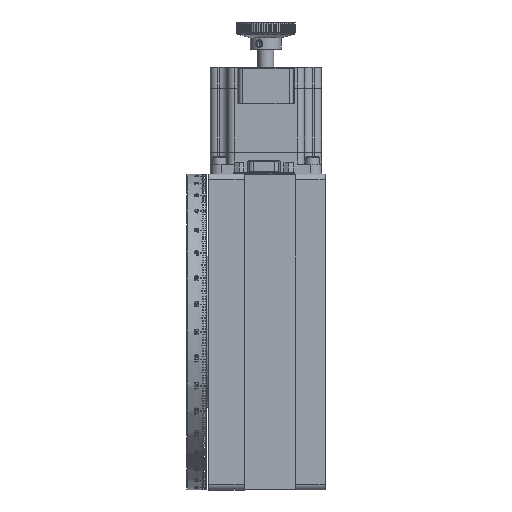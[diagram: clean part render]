
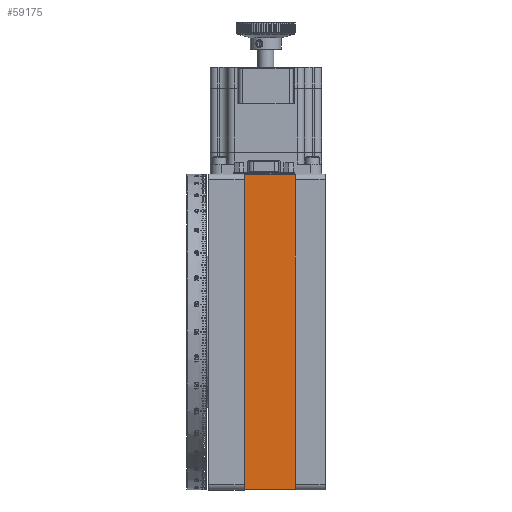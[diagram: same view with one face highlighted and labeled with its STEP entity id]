
A CAD part, left-side view. The second image highlights one B-rep face of the part: STEP entity #59175.
In plain terms, the highlighted planar face has unit normal (-1, 0, 0).
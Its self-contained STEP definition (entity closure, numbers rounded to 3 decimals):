
#375 = CARTESIAN_POINT ( 'NONE',  ( -155.638, 22.37, 80. ) ) ;
#383 = DIRECTION ( 'NONE',  ( 0., 1., 0. ) ) ;
#403 = CARTESIAN_POINT ( 'NONE',  ( -155.638, 22.37, -80. ) ) ;
#412 = DIRECTION ( 'NONE',  ( 0., 1., 0. ) ) ;
#426 = CARTESIAN_POINT ( 'NONE',  ( -155.638, -3.63, -80. ) ) ;
#436 = DIRECTION ( 'NONE',  ( 0., 0., 1. ) ) ;
#464 = DIRECTION ( 'NONE',  ( 0., 0., 1. ) ) ;
#473 = CARTESIAN_POINT ( 'NONE',  ( -155.638, 22.37, -80. ) ) ;
#3844 = VERTEX_POINT ( 'NONE', #59707 ) ;
#4715 = VERTEX_POINT ( 'NONE', #59761 ) ;
#4717 = VERTEX_POINT ( 'NONE', #59762 ) ;
#5059 = VERTEX_POINT ( 'NONE', #77801 ) ;
#28482 = VECTOR ( 'NONE', #464, 1000. ) ;
#28487 = LINE ( 'NONE', #473, #28482 ) ;
#28494 = VECTOR ( 'NONE', #436, 1000. ) ;
#28498 = LINE ( 'NONE', #426, #28494 ) ;
#28502 = VECTOR ( 'NONE', #412, 1000. ) ;
#28507 = LINE ( 'NONE', #403, #28502 ) ;
#28513 = VECTOR ( 'NONE', #383, 1000. ) ;
#28519 = LINE ( 'NONE', #375, #28513 ) ;
#29346 = FACE_OUTER_BOUND ( 'NONE', #43595, .T. ) ;
#43595 = EDGE_LOOP ( 'NONE', ( #44453, #44451, #44449, #44447 ) ) ;
#44447 = ORIENTED_EDGE ( 'NONE', *, *, #72999, .T. ) ;
#44449 = ORIENTED_EDGE ( 'NONE', *, *, #72994, .F. ) ;
#44451 = ORIENTED_EDGE ( 'NONE', *, *, #73007, .F. ) ;
#44453 = ORIENTED_EDGE ( 'NONE', *, *, #72988, .T. ) ;
#59175 = ADVANCED_FACE ( 'NONE', ( #29346 ), #82631, .F. ) ;
#59707 = CARTESIAN_POINT ( 'NONE',  ( -155.638, -3.63, -80. ) ) ;
#59761 = CARTESIAN_POINT ( 'NONE',  ( -155.638, -3.63, 80. ) ) ;
#59762 = CARTESIAN_POINT ( 'NONE',  ( -155.638, 22.37, 80. ) ) ;
#72988 = EDGE_CURVE ( 'NONE', #4715, #4717, #28519, .T. ) ;
#72994 = EDGE_CURVE ( 'NONE', #3844, #5059, #28507, .T. ) ;
#72999 = EDGE_CURVE ( 'NONE', #3844, #4715, #28498, .T. ) ;
#73007 = EDGE_CURVE ( 'NONE', #5059, #4717, #28487, .T. ) ;
#76692 = AXIS2_PLACEMENT_3D ( 'NONE', #82629, #82634, #82635 ) ;
#77801 = CARTESIAN_POINT ( 'NONE',  ( -155.638, 22.37, -80. ) ) ;
#82629 = CARTESIAN_POINT ( 'NONE',  ( -155.638, 22.37, -80. ) ) ;
#82631 = PLANE ( 'NONE',  #76692 ) ;
#82634 = DIRECTION ( 'NONE',  ( 1., 0., 0. ) ) ;
#82635 = DIRECTION ( 'NONE',  ( 0., 0., -1. ) ) ;
